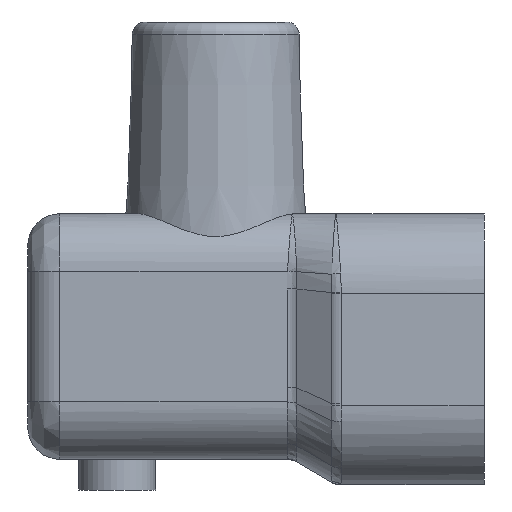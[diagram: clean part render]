
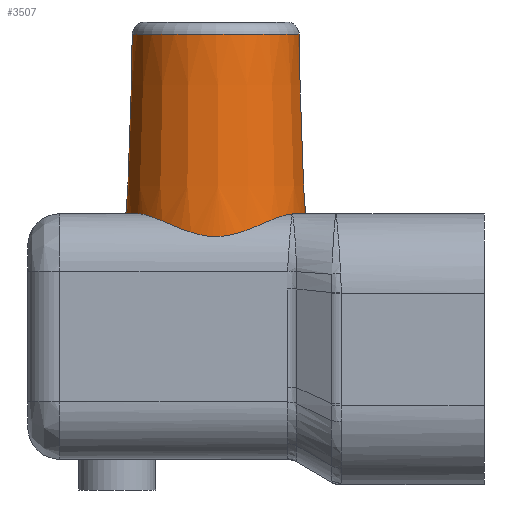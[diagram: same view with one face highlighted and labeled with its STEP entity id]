
A CAD part, left-side view. The second image highlights one B-rep face of the part: STEP entity #3507.
In plain terms, the highlighted conical face has half-angle 2 degrees and reference radius 3.25 mm.
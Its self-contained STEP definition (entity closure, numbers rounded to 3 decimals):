
#1008=CONICAL_SURFACE('',#33013,3.25,2.);
#1214=FACE_BOUND('',#7938,.T.);
#1215=FACE_BOUND('',#7939,.T.);
#2135=CIRCLE('',#32856,3.512);
#2136=CIRCLE('',#32858,3.512);
#2199=CIRCLE('',#33012,3.267);
#3507=ADVANCED_FACE('',(#1214,#1215),#1008,.T.);
#7938=EDGE_LOOP('',(#12336));
#7939=EDGE_LOOP('',(#12337,#12338,#12339,#12340,#12341,#12342,#12343,#12344,
#12345));
#9746=B_SPLINE_CURVE_WITH_KNOTS('',3,(#43782,#43783,#43784,#43785),
 .UNSPECIFIED.,.F.,.F.,(4,4),(0.,1.),.UNSPECIFIED.);
#9752=B_SPLINE_CURVE_WITH_KNOTS('',3,(#43891,#43892,#43893,#43894),
 .UNSPECIFIED.,.F.,.F.,(4,4),(0.,1.),.UNSPECIFIED.);
#9792=B_SPLINE_CURVE_WITH_KNOTS('',3,(#44720,#44721,#44722,#44723,#44724,
#44725,#44726,#44727,#44728,#44729,#44730,#44731,#44732,#44733,#44734,#44735,
#44736,#44737,#44738,#44739,#44740,#44741,#44742,#44743,#44744),
 .UNSPECIFIED.,.F.,.F.,(4,3,3,3,3,3,3,3,4),(0.,0.123,0.287,
0.422,0.518,0.614,0.778,0.921,
1.),.UNSPECIFIED.);
#9793=B_SPLINE_CURVE_WITH_KNOTS('',3,(#44746,#44747,#44748,#44749,#44750,
#44751,#44752,#44753,#44754,#44755),.UNSPECIFIED.,.F.,.F.,(4,2,2,2,4),(0.,
0.25,0.5,0.75,1.),.UNSPECIFIED.);
#9804=B_SPLINE_CURVE_WITH_KNOTS('',3,(#44935,#44936,#44937,#44938),
 .UNSPECIFIED.,.F.,.F.,(4,4),(0.,1.),.UNSPECIFIED.);
#9806=B_SPLINE_CURVE_WITH_KNOTS('',3,(#44949,#44950,#44951,#44952,#44953,
#44954,#44955,#44956,#44957,#44958),.UNSPECIFIED.,.F.,.F.,(4,3,3,4),(0.,
0.25,0.625,1.),.UNSPECIFIED.);
#9808=B_SPLINE_CURVE_WITH_KNOTS('',3,(#44976,#44977,#44978,#44979),
 .UNSPECIFIED.,.F.,.F.,(4,4),(0.,1.),.UNSPECIFIED.);
#12336=ORIENTED_EDGE('',*,*,#24537,.T.);
#12337=ORIENTED_EDGE('',*,*,#24202,.F.);
#12338=ORIENTED_EDGE('',*,*,#24373,.T.);
#12339=ORIENTED_EDGE('',*,*,#24377,.T.);
#12340=ORIENTED_EDGE('',*,*,#24148,.T.);
#12341=ORIENTED_EDGE('',*,*,#24331,.F.);
#12342=ORIENTED_EDGE('',*,*,#24208,.F.);
#12343=ORIENTED_EDGE('',*,*,#24330,.F.);
#12344=ORIENTED_EDGE('',*,*,#24154,.F.);
#12345=ORIENTED_EDGE('',*,*,#24371,.T.);
#20972=VERTEX_POINT('',#43786);
#20973=VERTEX_POINT('',#43787);
#20977=VERTEX_POINT('',#43889);
#20979=VERTEX_POINT('',#43895);
#21019=VERTEX_POINT('',#44131);
#21020=VERTEX_POINT('',#44133);
#21025=VERTEX_POINT('',#44144);
#21026=VERTEX_POINT('',#44146);
#21152=VERTEX_POINT('',#44959);
#21246=VERTEX_POINT('',#46286);
#24148=EDGE_CURVE('',#20972,#20973,#9746,.T.);
#24154=EDGE_CURVE('',#20977,#20979,#9752,.T.);
#24202=EDGE_CURVE('',#21019,#21020,#2135,.T.);
#24208=EDGE_CURVE('',#21025,#21026,#2136,.T.);
#24330=EDGE_CURVE('',#20979,#21025,#9792,.T.);
#24331=EDGE_CURVE('',#21026,#20973,#9793,.T.);
#24371=EDGE_CURVE('',#20977,#21020,#9804,.T.);
#24373=EDGE_CURVE('',#21019,#21152,#9806,.T.);
#24377=EDGE_CURVE('',#21152,#20972,#9808,.T.);
#24537=EDGE_CURVE('',#21246,#21246,#2199,.T.);
#32856=AXIS2_PLACEMENT_3D('',#44132,#35943,#35944);
#32858=AXIS2_PLACEMENT_3D('',#44145,#35952,#35953);
#33012=AXIS2_PLACEMENT_3D('',#46285,#36395,#36396);
#33013=AXIS2_PLACEMENT_3D('',#46287,#36397,#36398);
#35943=DIRECTION('',(0.,0.,-1.));
#35944=DIRECTION('',(0.,1.,0.));
#35952=DIRECTION('',(0.,0.,-1.));
#35953=DIRECTION('',(0.,1.,0.));
#36395=DIRECTION('',(0.,0.,-1.));
#36396=DIRECTION('',(0.,-1.,0.));
#36397=DIRECTION('',(0.,0.,-1.));
#36398=DIRECTION('',(1.,0.,0.));
#43782=CARTESIAN_POINT('',(1.826,7.375,-4.876));
#43783=CARTESIAN_POINT('',(1.827,7.376,-4.876));
#43784=CARTESIAN_POINT('',(1.828,7.376,-4.876));
#43785=CARTESIAN_POINT('',(1.829,7.377,-4.876));
#43786=CARTESIAN_POINT('',(1.826,7.375,-4.876));
#43787=CARTESIAN_POINT('',(1.829,7.377,-4.876));
#43889=CARTESIAN_POINT('',(-1.826,7.375,-4.876));
#43891=CARTESIAN_POINT('',(-1.826,7.375,-4.876));
#43892=CARTESIAN_POINT('',(-1.827,7.376,-4.876));
#43893=CARTESIAN_POINT('',(-1.828,7.376,-4.876));
#43894=CARTESIAN_POINT('',(-1.829,7.377,-4.876));
#43895=CARTESIAN_POINT('',(-1.829,7.377,-4.876));
#44131=CARTESIAN_POINT('',(1.716,7.311,-4.875));
#44132=CARTESIAN_POINT('',(0.,10.375,-4.875));
#44133=CARTESIAN_POINT('',(-1.756,7.334,-4.875));
#44144=CARTESIAN_POINT('',(-1.75,13.42,-4.875));
#44145=CARTESIAN_POINT('',(0.,10.375,-4.875));
#44146=CARTESIAN_POINT('',(1.75,13.42,-4.875));
#44720=CARTESIAN_POINT('',(-1.829,7.377,-4.876));
#44721=CARTESIAN_POINT('',(-2.093,7.538,-4.886));
#44722=CARTESIAN_POINT('',(-2.338,7.734,-4.942));
#44723=CARTESIAN_POINT('',(-2.546,7.949,-5.021));
#44724=CARTESIAN_POINT('',(-2.823,8.234,-5.125));
#44725=CARTESIAN_POINT('',(-3.047,8.559,-5.274));
#44726=CARTESIAN_POINT('',(-3.211,8.908,-5.414));
#44727=CARTESIAN_POINT('',(-3.347,9.194,-5.53));
#44728=CARTESIAN_POINT('',(-3.446,9.505,-5.644));
#44729=CARTESIAN_POINT('',(-3.499,9.832,-5.71));
#44730=CARTESIAN_POINT('',(-3.537,10.067,-5.757));
#44731=CARTESIAN_POINT('',(-3.551,10.314,-5.776));
#44732=CARTESIAN_POINT('',(-3.538,10.555,-5.759));
#44733=CARTESIAN_POINT('',(-3.525,10.796,-5.743));
#44734=CARTESIAN_POINT('',(-3.486,11.034,-5.691));
#44735=CARTESIAN_POINT('',(-3.426,11.259,-5.624));
#44736=CARTESIAN_POINT('',(-3.324,11.64,-5.509));
#44737=CARTESIAN_POINT('',(-3.159,11.995,-5.352));
#44738=CARTESIAN_POINT('',(-2.941,12.316,-5.216));
#44739=CARTESIAN_POINT('',(-2.751,12.596,-5.098));
#44740=CARTESIAN_POINT('',(-2.515,12.858,-4.99));
#44741=CARTESIAN_POINT('',(-2.241,13.081,-4.929));
#44742=CARTESIAN_POINT('',(-2.089,13.206,-4.895));
#44743=CARTESIAN_POINT('',(-1.923,13.32,-4.875));
#44744=CARTESIAN_POINT('',(-1.75,13.42,-4.875));
#44746=CARTESIAN_POINT('',(1.75,13.42,-4.875));
#44747=CARTESIAN_POINT('',(2.301,13.103,-4.875));
#44748=CARTESIAN_POINT('',(2.74,12.661,-5.07));
#44749=CARTESIAN_POINT('',(3.349,11.648,-5.499));
#44750=CARTESIAN_POINT('',(3.532,11.059,-5.751));
#44751=CARTESIAN_POINT('',(3.553,9.803,-5.779));
#44752=CARTESIAN_POINT('',(3.384,9.194,-5.536));
#44753=CARTESIAN_POINT('',(2.804,8.166,-5.104));
#44754=CARTESIAN_POINT('',(2.373,7.708,-4.895));
#44755=CARTESIAN_POINT('',(1.829,7.377,-4.876));
#44935=CARTESIAN_POINT('',(-1.826,7.375,-4.876));
#44936=CARTESIAN_POINT('',(-1.803,7.361,-4.875));
#44937=CARTESIAN_POINT('',(-1.779,7.347,-4.875));
#44938=CARTESIAN_POINT('',(-1.756,7.334,-4.875));
#44949=CARTESIAN_POINT('',(1.716,7.311,-4.875));
#44950=CARTESIAN_POINT('',(1.72,7.313,-4.875));
#44951=CARTESIAN_POINT('',(1.723,7.315,-4.875));
#44952=CARTESIAN_POINT('',(1.727,7.317,-4.875));
#44953=CARTESIAN_POINT('',(1.732,7.32,-4.875));
#44954=CARTESIAN_POINT('',(1.737,7.323,-4.875));
#44955=CARTESIAN_POINT('',(1.742,7.326,-4.875));
#44956=CARTESIAN_POINT('',(1.747,7.328,-4.875));
#44957=CARTESIAN_POINT('',(1.752,7.331,-4.875));
#44958=CARTESIAN_POINT('',(1.757,7.334,-4.875));
#44959=CARTESIAN_POINT('',(1.757,7.334,-4.875));
#44976=CARTESIAN_POINT('',(1.757,7.334,-4.875));
#44977=CARTESIAN_POINT('',(1.78,7.348,-4.875));
#44978=CARTESIAN_POINT('',(1.803,7.361,-4.875));
#44979=CARTESIAN_POINT('',(1.826,7.375,-4.876));
#46285=CARTESIAN_POINT('',(0.,10.375,2.142));
#46286=CARTESIAN_POINT('',(0.,7.108,2.142));
#46287=CARTESIAN_POINT('',(0.,10.375,2.625));
